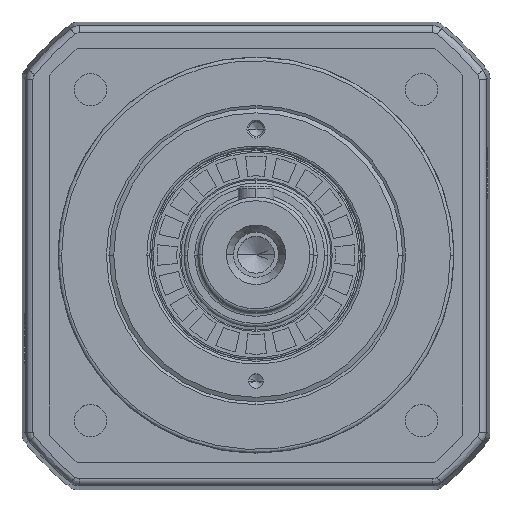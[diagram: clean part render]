
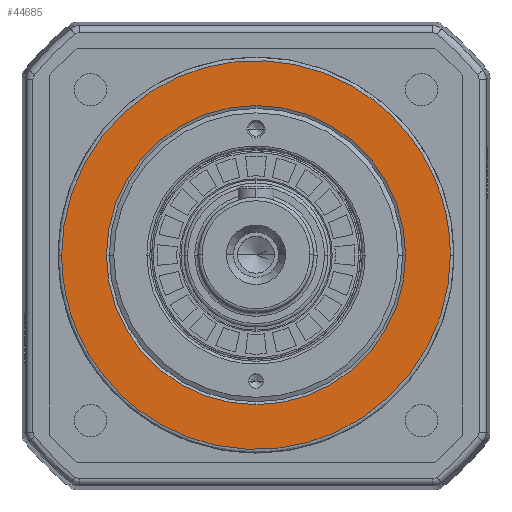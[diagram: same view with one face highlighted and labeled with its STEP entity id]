
A CAD part, top view. The second image highlights one B-rep face of the part: STEP entity #44685.
In plain terms, the highlighted planar face has unit normal (0, 0, 1).
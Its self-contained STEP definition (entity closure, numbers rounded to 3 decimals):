
#4400 = PLANE ( 'NONE',  #24197 ) ;
#6377 = CARTESIAN_POINT ( 'NONE',  ( 0., 41.55, 72.5 ) ) ;
#10616 = VERTEX_POINT ( 'NONE', #32925 ) ;
#10823 = DIRECTION ( 'NONE',  ( 0., -1., 0. ) ) ;
#10862 = DIRECTION ( 'NONE',  ( 0., 0., -1. ) ) ;
#10879 = CARTESIAN_POINT ( 'NONE',  ( 0., 0., 72.5 ) ) ;
#11790 = DIRECTION ( 'NONE',  ( 1., 0., 0. ) ) ;
#13687 = CARTESIAN_POINT ( 'NONE',  ( 0., -41.55, 72.5 ) ) ;
#15146 = EDGE_CURVE ( 'NONE', #36166, #17149, #30761, .T. ) ;
#15182 = ORIENTED_EDGE ( 'NONE', *, *, #38683, .T. ) ;
#15517 = AXIS2_PLACEMENT_3D ( 'NONE', #46980, #46916, #46878 ) ;
#15802 = CARTESIAN_POINT ( 'NONE',  ( -54., 0., 72.5 ) ) ;
#16754 = VERTEX_POINT ( 'NONE', #25010 ) ;
#16759 = AXIS2_PLACEMENT_3D ( 'NONE', #10879, #10862, #10823 ) ;
#17149 = VERTEX_POINT ( 'NONE', #13687 ) ;
#21697 = ORIENTED_EDGE ( 'NONE', *, *, #15146, .T. ) ;
#22958 = EDGE_LOOP ( 'NONE', ( #15182, #21697 ) ) ;
#23060 = CARTESIAN_POINT ( 'NONE',  ( 0., 0., 72.5 ) ) ;
#24197 = AXIS2_PLACEMENT_3D ( 'NONE', #23060, #34273, #11790 ) ;
#24832 = FACE_OUTER_BOUND ( 'NONE', #43155, .T. ) ;
#25010 = CARTESIAN_POINT ( 'NONE',  ( 54., 0., 72.5 ) ) ;
#26925 = CARTESIAN_POINT ( 'NONE',  ( 54., -108., 72.5 ) ) ;
#27670 =( BOUNDED_CURVE ( )  B_SPLINE_CURVE ( 3, ( #37271, #37886, #37173, #37117 ),
 .UNSPECIFIED., .F., .F. ) 
 B_SPLINE_CURVE_WITH_KNOTS ( ( 4, 4 ),
 ( 0., 1. ),
 .UNSPECIFIED. ) 
 CURVE ( )  GEOMETRIC_REPRESENTATION_ITEM ( )  RATIONAL_B_SPLINE_CURVE ( ( 1., 0.333, 0.333, 1. ) ) 
 REPRESENTATION_ITEM ( '' )  );
#30761 = CIRCLE ( 'NONE', #16759, 41.55 ) ;
#32925 = CARTESIAN_POINT ( 'NONE',  ( -54., 0., 72.5 ) ) ;
#33994 = EDGE_CURVE ( 'NONE', #10616, #16754, #27670, .T. ) ;
#34273 = DIRECTION ( 'NONE',  ( 0., 0., 1. ) ) ;
#34421 = CARTESIAN_POINT ( 'NONE',  ( 54., 0., 72.5 ) ) ;
#36166 = VERTEX_POINT ( 'NONE', #6377 ) ;
#37117 = CARTESIAN_POINT ( 'NONE',  ( 54., 0., 72.5 ) ) ;
#37173 = CARTESIAN_POINT ( 'NONE',  ( 54., 108., 72.5 ) ) ;
#37271 = CARTESIAN_POINT ( 'NONE',  ( -54., 0., 72.5 ) ) ;
#37886 = CARTESIAN_POINT ( 'NONE',  ( -54., 108., 72.5 ) ) ;
#38183 = CARTESIAN_POINT ( 'NONE',  ( -54., -108., 72.5 ) ) ;
#38683 = EDGE_CURVE ( 'NONE', #17149, #36166, #39510, .T. ) ;
#39180 = ORIENTED_EDGE ( 'NONE', *, *, #33994, .F. ) ;
#39406 = FACE_BOUND ( 'NONE', #22958, .T. ) ;
#39510 = CIRCLE ( 'NONE', #15517, 41.55 ) ;
#40688 =( BOUNDED_CURVE ( )  B_SPLINE_CURVE ( 3, ( #34421, #26925, #38183, #15802 ),
 .UNSPECIFIED., .F., .T. ) 
 B_SPLINE_CURVE_WITH_KNOTS ( ( 4, 4 ),
 ( 0., 1. ),
 .UNSPECIFIED. ) 
 CURVE ( )  GEOMETRIC_REPRESENTATION_ITEM ( )  RATIONAL_B_SPLINE_CURVE ( ( 1., 0.333, 0.333, 1. ) ) 
 REPRESENTATION_ITEM ( '' )  );
#43022 = ORIENTED_EDGE ( 'NONE', *, *, #43802, .F. ) ;
#43155 = EDGE_LOOP ( 'NONE', ( #39180, #43022 ) ) ;
#43802 = EDGE_CURVE ( 'NONE', #16754, #10616, #40688, .T. ) ;
#44685 = ADVANCED_FACE ( 'NONE', ( #39406, #24832 ), #4400, .T. ) ;
#46878 = DIRECTION ( 'NONE',  ( 0., -1., 0. ) ) ;
#46916 = DIRECTION ( 'NONE',  ( 0., 0., -1. ) ) ;
#46980 = CARTESIAN_POINT ( 'NONE',  ( 0., 0., 72.5 ) ) ;
